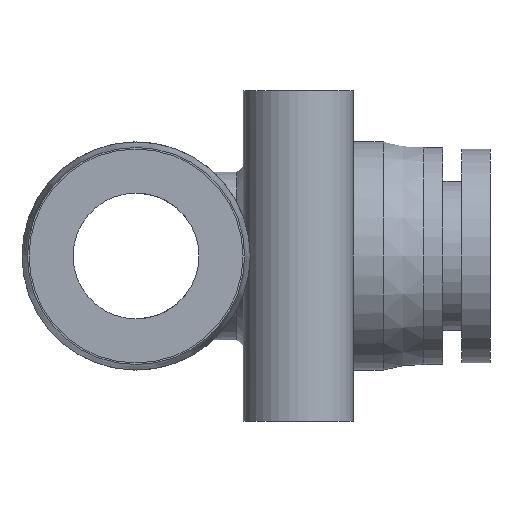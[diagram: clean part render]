
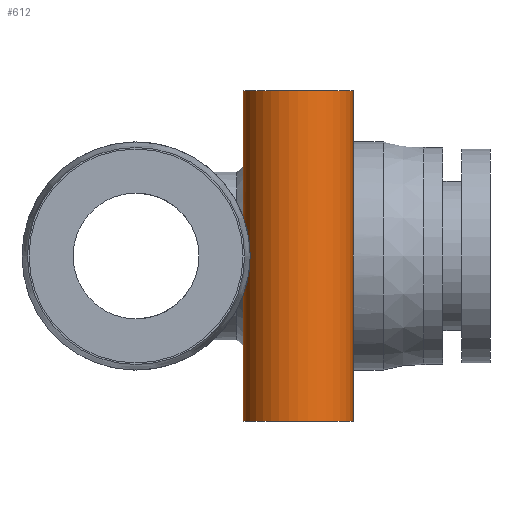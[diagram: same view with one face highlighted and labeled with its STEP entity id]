
A CAD part, left-side view. The second image highlights one B-rep face of the part: STEP entity #612.
In plain terms, the highlighted cylindrical face has radius 3.5 mm (diameter 7 mm), a full revolution.
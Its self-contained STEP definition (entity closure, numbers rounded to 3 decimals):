
#408=CARTESIAN_POINT('',(-8.614,-7.233,-0.5));
#409=VERTEX_POINT('',#408);
#462=CARTESIAN_POINT('',(-7.233,-8.614,-0.5));
#463=VERTEX_POINT('',#462);
#470=CARTESIAN_POINT('',(-10.3,-10.3,-0.5));
#471=DIRECTION('',(0.0,0.0,1.0));
#472=DIRECTION('',(1.0,0.0,0.0));
#473=AXIS2_PLACEMENT_3D('',#470,#471,#472);
#474=CIRCLE('',#473,3.5);
#475=EDGE_CURVE('',#463,#409,#474,.T.);
#480=CARTESIAN_POINT('',(-10.3,-10.3,0.0));
#481=DIRECTION('',(0.0,0.0,-1.0));
#482=DIRECTION('',(1.0,0.0,0.0));
#483=AXIS2_PLACEMENT_3D('',#480,#481,#482);
#484=CYLINDRICAL_SURFACE('',#483,3.5);
#485=CARTESIAN_POINT('',(-13.8,-10.3,-10.5));
#486=VERTEX_POINT('',#485);
#487=CARTESIAN_POINT('',(-10.3,-10.3,-10.5));
#488=DIRECTION('',(0.0,0.0,-1.0));
#489=DIRECTION('',(1.0,0.0,0.0));
#490=AXIS2_PLACEMENT_3D('',#487,#488,#489);
#491=CIRCLE('',#490,3.5);
#492=EDGE_CURVE('',#486,#486,#491,.T.);
#493=ORIENTED_EDGE('',*,*,#492,.F.);
#494=EDGE_LOOP('',(#493));
#495=FACE_OUTER_BOUND('',#494,.T.);
#496=CARTESIAN_POINT('',(-13.8,-10.3,10.5));
#497=VERTEX_POINT('',#496);
#498=CARTESIAN_POINT('',(-10.3,-10.3,10.5));
#499=DIRECTION('',(0.0,0.0,1.0));
#500=DIRECTION('',(1.0,0.0,0.0));
#501=AXIS2_PLACEMENT_3D('',#498,#499,#500);
#502=CIRCLE('',#501,3.5);
#503=EDGE_CURVE('',#497,#497,#502,.T.);
#504=ORIENTED_EDGE('',*,*,#503,.F.);
#505=EDGE_LOOP('',(#504));
#506=FACE_BOUND('',#505,.T.);
#507=CARTESIAN_POINT('',(-8.614,-7.233,0.5));
#508=VERTEX_POINT('',#507);
#509=CARTESIAN_POINT('',(-8.614,-7.233,-0.5));
#510=CARTESIAN_POINT('',(-8.647,-7.215,-0.757));
#511=CARTESIAN_POINT('',(-8.705,-7.183,-1.014));
#512=CARTESIAN_POINT('',(-8.867,-7.106,-1.453));
#513=CARTESIAN_POINT('',(-8.96,-7.064,-1.64));
#514=CARTESIAN_POINT('',(-9.192,-6.978,-1.976));
#515=CARTESIAN_POINT('',(-9.329,-6.933,-2.124));
#516=CARTESIAN_POINT('',(-9.604,-6.868,-2.323));
#517=CARTESIAN_POINT('',(-9.734,-6.843,-2.395));
#518=CARTESIAN_POINT('',(-10.013,-6.809,-2.491));
#519=CARTESIAN_POINT('',(-10.162,-6.8,-2.514));
#520=CARTESIAN_POINT('',(-10.438,-6.8,-2.514));
#521=CARTESIAN_POINT('',(-10.587,-6.809,-2.491));
#522=CARTESIAN_POINT('',(-10.866,-6.843,-2.395));
#523=CARTESIAN_POINT('',(-10.996,-6.868,-2.323));
#524=CARTESIAN_POINT('',(-11.271,-6.933,-2.124));
#525=CARTESIAN_POINT('',(-11.408,-6.978,-1.976));
#526=CARTESIAN_POINT('',(-11.64,-7.064,-1.64));
#527=CARTESIAN_POINT('',(-11.733,-7.106,-1.453));
#528=CARTESIAN_POINT('',(-11.953,-7.211,-0.857));
#529=CARTESIAN_POINT('',(-12.017,-7.25,-0.414));
#530=CARTESIAN_POINT('',(-12.017,-7.25,0.0));
#531=CARTESIAN_POINT('',(-12.017,-7.25,0.414));
#532=CARTESIAN_POINT('',(-11.953,-7.211,0.857));
#533=CARTESIAN_POINT('',(-11.733,-7.106,1.453));
#534=CARTESIAN_POINT('',(-11.64,-7.064,1.64));
#535=CARTESIAN_POINT('',(-11.408,-6.978,1.976));
#536=CARTESIAN_POINT('',(-11.271,-6.933,2.124));
#537=CARTESIAN_POINT('',(-10.996,-6.868,2.323));
#538=CARTESIAN_POINT('',(-10.866,-6.843,2.395));
#539=CARTESIAN_POINT('',(-10.587,-6.809,2.491));
#540=CARTESIAN_POINT('',(-10.438,-6.8,2.514));
#541=CARTESIAN_POINT('',(-10.162,-6.8,2.514));
#542=CARTESIAN_POINT('',(-10.013,-6.809,2.491));
#543=CARTESIAN_POINT('',(-9.734,-6.843,2.395));
#544=CARTESIAN_POINT('',(-9.604,-6.868,2.323));
#545=CARTESIAN_POINT('',(-9.329,-6.933,2.124));
#546=CARTESIAN_POINT('',(-9.192,-6.978,1.976));
#547=CARTESIAN_POINT('',(-8.96,-7.064,1.64));
#548=CARTESIAN_POINT('',(-8.867,-7.106,1.453));
#549=CARTESIAN_POINT('',(-8.705,-7.183,1.014));
#550=CARTESIAN_POINT('',(-8.647,-7.215,0.757));
#551=CARTESIAN_POINT('',(-8.614,-7.233,0.5));
#552=B_SPLINE_CURVE_WITH_KNOTS('',3,(#509,#510,#511,#512,#513,#514,#515,#516,#517,#518,#519,#520,#521,#522,#523,#524,#525,#526,#527,#528,#529,#530,#531,#532,#533,#534,#535,#536,#537,#538,#539,#540,#541,#542,#543,#544,#545,#546,#547,#548,#549,#550,#551),.UNSPECIFIED.,.F.,.U.,(4,2,2,2,2,2,2,2,2,2,3,2,2,2,2,2,2,2,2,2,4),(0.711,0.786,0.848,0.91,0.952,0.993,1.035,1.076,1.138,1.2,1.325,1.449,1.511,1.573,1.614,1.656,1.697,1.739,1.801,1.863,1.938),.UNSPECIFIED.);
#553=EDGE_CURVE('',#409,#508,#552,.T.);
#554=ORIENTED_EDGE('',*,*,#553,.F.);
#555=ORIENTED_EDGE('',*,*,#475,.F.);
#556=CARTESIAN_POINT('',(-7.233,-8.614,0.5));
#557=VERTEX_POINT('',#556);
#558=CARTESIAN_POINT('',(-7.233,-8.614,0.5));
#559=CARTESIAN_POINT('',(-7.215,-8.647,0.757));
#560=CARTESIAN_POINT('',(-7.183,-8.705,1.014));
#561=CARTESIAN_POINT('',(-7.106,-8.867,1.453));
#562=CARTESIAN_POINT('',(-7.064,-8.96,1.64));
#563=CARTESIAN_POINT('',(-6.978,-9.192,1.976));
#564=CARTESIAN_POINT('',(-6.933,-9.329,2.124));
#565=CARTESIAN_POINT('',(-6.868,-9.604,2.323));
#566=CARTESIAN_POINT('',(-6.843,-9.734,2.395));
#567=CARTESIAN_POINT('',(-6.809,-10.013,2.491));
#568=CARTESIAN_POINT('',(-6.8,-10.162,2.514));
#569=CARTESIAN_POINT('',(-6.8,-10.438,2.514));
#570=CARTESIAN_POINT('',(-6.809,-10.587,2.491));
#571=CARTESIAN_POINT('',(-6.843,-10.866,2.395));
#572=CARTESIAN_POINT('',(-6.868,-10.996,2.323));
#573=CARTESIAN_POINT('',(-6.933,-11.271,2.124));
#574=CARTESIAN_POINT('',(-6.978,-11.408,1.976));
#575=CARTESIAN_POINT('',(-7.064,-11.64,1.64));
#576=CARTESIAN_POINT('',(-7.106,-11.733,1.453));
#577=CARTESIAN_POINT('',(-7.211,-11.953,0.857));
#578=CARTESIAN_POINT('',(-7.25,-12.017,0.414));
#579=CARTESIAN_POINT('',(-7.25,-12.017,-0.414));
#580=CARTESIAN_POINT('',(-7.211,-11.953,-0.857));
#581=CARTESIAN_POINT('',(-7.106,-11.733,-1.453));
#582=CARTESIAN_POINT('',(-7.064,-11.64,-1.64));
#583=CARTESIAN_POINT('',(-6.978,-11.408,-1.976));
#584=CARTESIAN_POINT('',(-6.933,-11.271,-2.124));
#585=CARTESIAN_POINT('',(-6.868,-10.996,-2.323));
#586=CARTESIAN_POINT('',(-6.843,-10.866,-2.395));
#587=CARTESIAN_POINT('',(-6.809,-10.587,-2.491));
#588=CARTESIAN_POINT('',(-6.8,-10.438,-2.514));
#589=CARTESIAN_POINT('',(-6.8,-10.162,-2.514));
#590=CARTESIAN_POINT('',(-6.809,-10.013,-2.491));
#591=CARTESIAN_POINT('',(-6.843,-9.734,-2.395));
#592=CARTESIAN_POINT('',(-6.868,-9.604,-2.323));
#593=CARTESIAN_POINT('',(-6.933,-9.329,-2.124));
#594=CARTESIAN_POINT('',(-6.978,-9.192,-1.976));
#595=CARTESIAN_POINT('',(-7.064,-8.96,-1.64));
#596=CARTESIAN_POINT('',(-7.106,-8.867,-1.453));
#597=CARTESIAN_POINT('',(-7.183,-8.705,-1.014));
#598=CARTESIAN_POINT('',(-7.215,-8.647,-0.757));
#599=CARTESIAN_POINT('',(-7.233,-8.614,-0.5));
#600=B_SPLINE_CURVE_WITH_KNOTS('',3,(#558,#559,#560,#561,#562,#563,#564,#565,#566,#567,#568,#569,#570,#571,#572,#573,#574,#575,#576,#577,#578,#579,#580,#581,#582,#583,#584,#585,#586,#587,#588,#589,#590,#591,#592,#593,#594,#595,#596,#597,#598,#599),.UNSPECIFIED.,.F.,.U.,(4,2,2,2,2,2,2,2,2,2,2,2,2,2,2,2,2,2,2,2,4),(0.049,0.124,0.186,0.248,0.29,0.331,0.373,0.414,0.476,0.538,0.662,0.786,0.848,0.91,0.952,0.993,1.035,1.076,1.138,1.2,1.275),.UNSPECIFIED.);
#601=EDGE_CURVE('',#557,#463,#600,.T.);
#602=ORIENTED_EDGE('',*,*,#601,.F.);
#603=CARTESIAN_POINT('',(-10.3,-10.3,0.5));
#604=DIRECTION('',(0.0,0.0,-1.0));
#605=DIRECTION('',(1.0,0.0,0.0));
#606=AXIS2_PLACEMENT_3D('',#603,#604,#605);
#607=CIRCLE('',#606,3.5);
#608=EDGE_CURVE('',#508,#557,#607,.T.);
#609=ORIENTED_EDGE('',*,*,#608,.F.);
#610=EDGE_LOOP('',(#554,#555,#602,#609));
#611=FACE_BOUND('',#610,.T.);
#612=ADVANCED_FACE('',(#495,#506,#611),#484,.T.);
